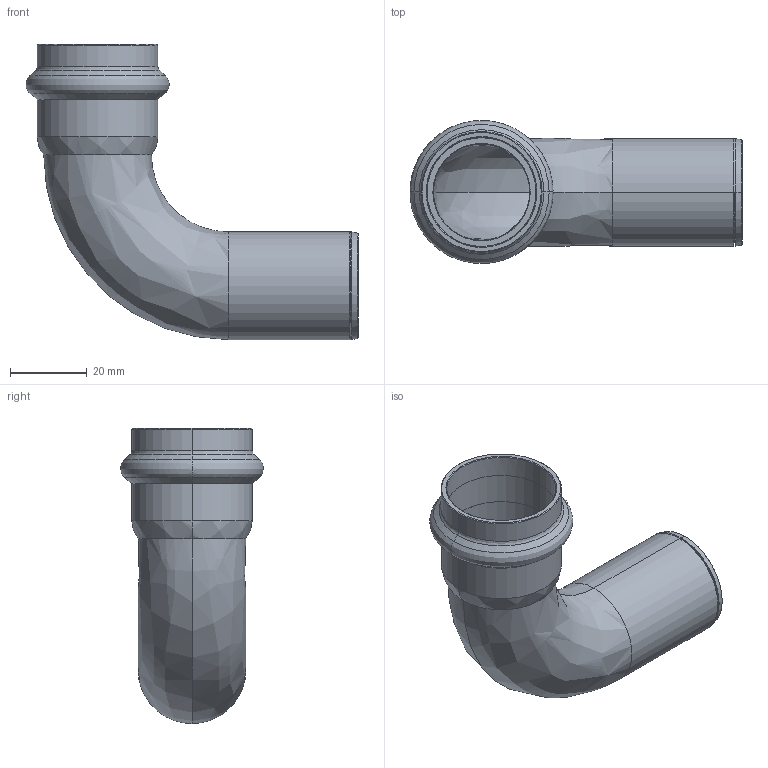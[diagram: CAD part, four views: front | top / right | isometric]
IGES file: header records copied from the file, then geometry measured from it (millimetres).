
Start section: Elysium IGES Interface
Global section: file name: C:\3d modellen sudo\C-Pr VP\SP8001V\8001VW28.igs; native system: CoCreate Modeling 17.00A  17-Jun-2010; preprocessor: CoCreate IGES_3D V2.2; author: Unknown; organization: Unknown; date: 20130129.135821; units: millimetre
Bounding box: 86.3 x 37.17 x 76.74 mm (x, y, z)
Volume: 16614.1 mm3; surface area: 20733.8 mm2
Topology: 1 solids, 1 shells, 52 faces, 116 edges, 64 vertices
Faces by surface type: bspline 52
